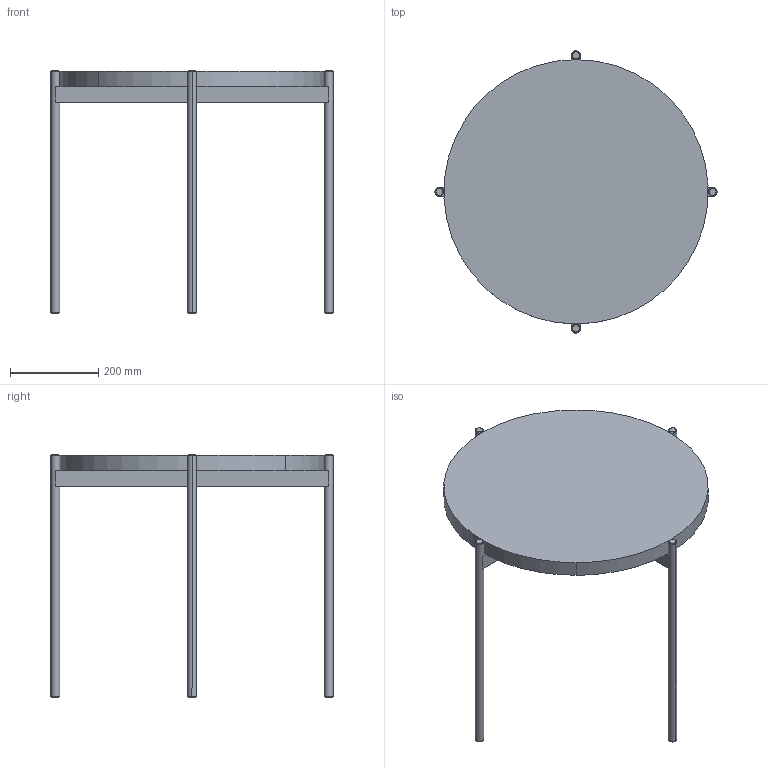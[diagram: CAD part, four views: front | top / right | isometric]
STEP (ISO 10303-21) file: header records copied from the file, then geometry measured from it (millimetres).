
FILE_DESCRIPTION(/* description */ (''),/* implementation_level */ '2;1');
FILE_NAME(/* name */ 'DARRS9~F',/* time_stamp */ '2022-08-18T08:02:22+02:00',/* author */ (''),/* organization */ (''),/* preprocessor_version */ 'ST-DEVELOPER v16.5',/* originating_system */ '',/* authorisation */ '');
FILE_SCHEMA (('AUTOMOTIVE_DESIGN'));
Length unit declared in the file: millimetre
Products named in the file (1): Document
Bounding box: 640 x 640 x 552 mm (x, y, z)
Volume: 11483317.6 mm3; surface area: 912363.8 mm2
Topology: 7 solids, 7 shells, 48 faces, 87 edges, 53 vertices
Faces by surface type: bspline 26, plane 22
Entity records: 1289 total; most frequent: CARTESIAN_POINT 626, ORIENTED_EDGE 172, EDGE_CURVE 86, VERTEX_POINT 52, ADVANCED_FACE 48, FACE_OUTER_BOUND 48, EDGE_LOOP 48, B_SPLINE_CURVE_WITH_KNOTS 44
